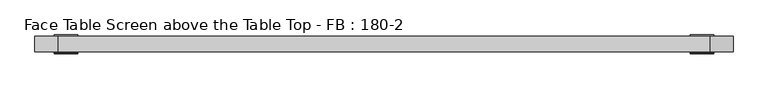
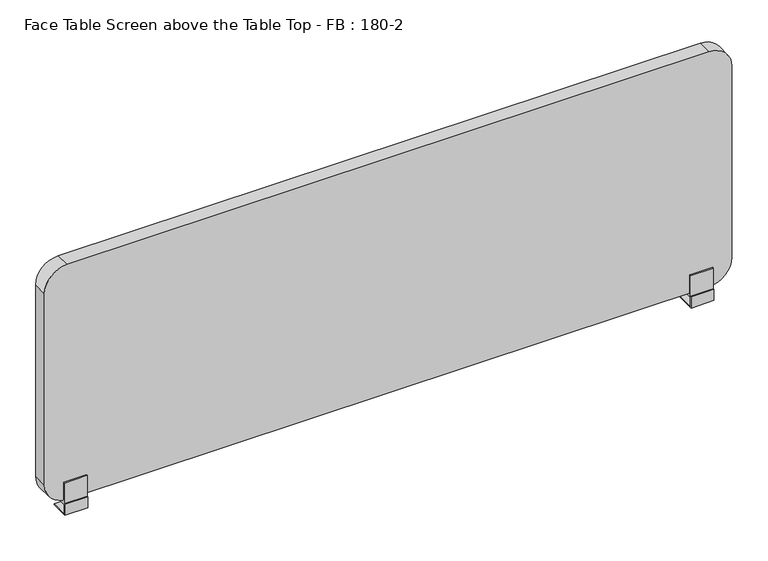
"""IFC4 building model written with IfcOpenShell, lengths in millimetres: furniture geometry, Face Table Screen above the Table Top - FB : 180-2."""

from ifc_helpers import new_model, si_unit, point, frame, frame_2d, origin, place, context, project, spatial, polyline, circle_curve, trimmed, segment, composite_curve, outline, extrude, source, transform, mapped, element, save
from ifc_brep_helpers import plane_surface, cylinder_surface, advanced_brep


def face_table_screen_above_the_table_top_fb_180_2_5c300800(model_context):
    return source(origin(), model_context, "Body", "SolidModel", [
        advanced_brep(
        [(-825.0, 20.0, -39.4406633), (-815.0, 20.0, -39.4406633), (-815.0, 20.0, -28.0), (-825.0, 20.0, -28.0), (-850.0, 43.0, -25.0), (-850.0, -3.0, -25.0), (-790.0, -3.0, -25.0), (-790.0, 43.0, -25.0), (-850.0, -3.0, 0.0), (-850.0, 43.0, -28.0), (-850.0, -6.0, -28.0), (-850.0, -6.0, 3.0), (-850.0, -3.0, 3.0), (-850.0, -3.0, 60.0), (-850.0, 0.0, 60.0), (-850.0, 0.0, 10.0), (-850.0, 40.0, 10.0), (-850.0, 40.0, 60.0), (-850.0, 43.0, 60.0), (-850.0, 43.0, 0.0), (-790.0, -3.0, 0.0), (-790.0, 43.0, 0.0), (-790.0, 43.0, 60.0), (-790.0, 40.0, 60.0), (-790.0, 40.0, 10.0), (-790.0, 0.0, 10.0), (-790.0, 0.0, 60.0), (-790.0, -3.0, 60.0), (-790.0, -3.0, 3.0), (-790.0, -6.0, 3.0), (-790.0, -6.0, -28.0), (-790.0, 43.0, -28.0)],
        [
            (0, 1, circle_curve(frame((-820.0, 20.0, -39.4406633), z_axis=(0.0, 0.0, -1.0), x_axis=(1.0, 0.0, 0.0)), 5.0)),
            (1, 0, circle_curve(frame((-820.0, 20.0, -39.4406633), z_axis=(0.0, 0.0, -1.0), x_axis=(1.0, 0.0, 0.0)), 5.0)),
            (1, 2),
            (2, 3, circle_curve(frame((-820.0, 20.0, -28.0), z_axis=(0.0, 0.0, -1.0), x_axis=(1.0, 0.0, 0.0)), 5.0)),
            (3, 0),
            (3, 2, circle_curve(frame((-820.0, 20.0, -28.0), z_axis=(0.0, 0.0, -1.0), x_axis=(1.0, 0.0, 0.0)), 5.0)),
            (4, 5),
            (5, 6),
            (6, 7),
            (7, 4),
            (8, 5),
            (4, 9),
            (9, 10),
            (10, 11),
            (11, 12),
            (12, 13),
            (13, 14),
            (14, 15),
            (15, 16),
            (16, 17),
            (17, 18),
            (18, 19),
            (19, 8),
            (20, 21),
            (21, 22),
            (22, 23),
            (23, 24),
            (24, 25),
            (25, 26),
            (26, 27),
            (27, 28),
            (28, 29),
            (29, 30),
            (30, 31),
            (31, 7),
            (6, 20),
            (19, 21),
            (20, 8),
            (18, 22),
            (17, 23),
            (16, 24),
            (15, 25),
            (14, 26),
            (13, 27),
            (12, 28),
            (11, 29),
            (10, 30),
            (9, 31),
        ],
        [
            plane_surface(frame((-815.0, 20.0, -39.4406633), z_axis=(0.0, 0.0, -1.0), x_axis=(0.0, -1.0, 0.0))),
            cylinder_surface(frame((-820.0, 20.0, -39.4406633), z_axis=(0.0, 0.0, 1.0), x_axis=(1.0, 0.0, 0.0)), 5.0),
            plane_surface(frame((-815.0, 20.0, -25.0), z_axis=(0.0, 0.0, 1.0), x_axis=(0.0, 1.0, 0.0))),
            plane_surface(frame((-850.0, 43.0, 0.0), z_axis=(-1.0, 0.0, 0.0), x_axis=(0.0, -1.0, 0.0))),
            plane_surface(frame((-790.0, 43.0, 0.0), z_axis=(1.0, 0.0, 0.0), x_axis=(0.0, 1.0, 0.0))),
            plane_surface(frame((-790.0, -3.0, 0.0), z_axis=(0.0, 0.0, -1.0), x_axis=(-1.0, 0.0, 0.0))),
            plane_surface(frame((-790.0, 43.0, 0.0), z_axis=(0.0, 1.0, 0.0), x_axis=(-1.0, 0.0, 0.0))),
            plane_surface(frame((-790.0, 43.0, 60.0), z_axis=(0.0, 0.0, 1.0), x_axis=(-1.0, 0.0, 0.0))),
            plane_surface(frame((-790.0, 40.0, 60.0), z_axis=(0.0, -1.0, 0.0), x_axis=(-1.0, 0.0, 0.0))),
            plane_surface(frame((-790.0, 40.0, 10.0), z_axis=(0.0, 0.0, 1.0), x_axis=(-1.0, 0.0, 0.0))),
            plane_surface(frame((-790.0, 0.0, 10.0), z_axis=(0.0, 1.0, 0.0), x_axis=(-1.0, 0.0, 0.0))),
            plane_surface(frame((-790.0, 0.0, 60.0), z_axis=(0.0, 0.0, 1.0), x_axis=(-1.0, 0.0, 0.0))),
            plane_surface(frame((-790.0, -3.0, 60.0), z_axis=(0.0, -1.0, 0.0), x_axis=(-1.0, 0.0, 0.0))),
            plane_surface(frame((-790.0, -3.0, 3.0), z_axis=(0.0, 0.0, 1.0), x_axis=(-1.0, 0.0, 0.0))),
            plane_surface(frame((-790.0, -6.0, 3.0), z_axis=(0.0, -1.0, 0.0), x_axis=(-1.0, 0.0, 0.0))),
            plane_surface(frame((-790.0, -6.0, -28.0), z_axis=(0.0, 0.0, -1.0), x_axis=(-1.0, 0.0, 0.0))),
            plane_surface(frame((-790.0, 43.0, -28.0), z_axis=(0.0, 1.0, 0.0), x_axis=(-1.0, 0.0, 0.0))),
            plane_surface(frame((-790.0, -3.0, -25.0), z_axis=(0.0, 1.0, 0.0), x_axis=(-1.0, 0.0, 0.0))),
        ],
        [
            (0, [[1, 2]]),
            (1, [[-2, 3, 4, 5]]),
            (1, [[-1, -5, 6, -3]]),
            (2, [[7, 8, 9, 10]]),
            (3, [[11, -7, 12, 13, 14, 15, 16, 17, 18, 19, 20, 21, 22, 23]]),
            (4, [[24, 25, 26, 27, 28, 29, 30, 31, 32, 33, 34, 35, -9, 36]]),
            (5, [[-23, 37, -24, 38]]),
            (6, [[-22, 39, -25, -37]]),
            (7, [[-21, 40, -26, -39]]),
            (8, [[-20, 41, -27, -40]]),
            (9, [[-19, 42, -28, -41]]),
            (10, [[-18, 43, -29, -42]]),
            (11, [[-17, 44, -30, -43]]),
            (12, [[-16, 45, -31, -44]]),
            (13, [[-15, 46, -32, -45]]),
            (14, [[-14, 47, -33, -46]]),
            (15, [[-13, 48, -34, -47], [-4, -6]]),
            (16, [[-12, -10, -35, -48]]),
            (17, [[-11, -38, -36, -8]]),
        ],
    ),
        advanced_brep(
        [(815.0, 20.0, -39.4406633), (825.0, 20.0, -39.4406633), (825.0, 20.0, -28.0), (815.0, 20.0, -28.0), (790.0, 43.0, -25.0), (790.0, -3.0, -25.0), (850.0, -3.0, -25.0), (850.0, 43.0, -25.0), (790.0, -3.0, 0.0), (790.0, 43.0, -28.0), (790.0, -6.0, -28.0), (790.0, -6.0, 3.0), (790.0, -3.0, 3.0), (790.0, -3.0, 60.0), (790.0, 0.0, 60.0), (790.0, 0.0, 10.0), (790.0, 40.0, 10.0), (790.0, 40.0, 60.0), (790.0, 43.0, 60.0), (790.0, 43.0, 0.0), (850.0, -3.0, 0.0), (850.0, 43.0, 0.0), (850.0, 43.0, 60.0), (850.0, 40.0, 60.0), (850.0, 40.0, 10.0), (850.0, 0.0, 10.0), (850.0, 0.0, 60.0), (850.0, -3.0, 60.0), (850.0, -3.0, 3.0), (850.0, -6.0, 3.0), (850.0, -6.0, -28.0), (850.0, 43.0, -28.0)],
        [
            (0, 1, circle_curve(frame((820.0, 20.0, -39.4406633), z_axis=(0.0, 0.0, -1.0), x_axis=(1.0, 0.0, 0.0)), 5.0)),
            (1, 0, circle_curve(frame((820.0, 20.0, -39.4406633), z_axis=(0.0, 0.0, -1.0), x_axis=(1.0, 0.0, 0.0)), 5.0)),
            (1, 2),
            (2, 3, circle_curve(frame((820.0, 20.0, -28.0), z_axis=(0.0, 0.0, -1.0), x_axis=(1.0, 0.0, 0.0)), 5.0)),
            (3, 0),
            (3, 2, circle_curve(frame((820.0, 20.0, -28.0), z_axis=(0.0, 0.0, -1.0), x_axis=(1.0, 0.0, 0.0)), 5.0)),
            (4, 5),
            (5, 6),
            (6, 7),
            (7, 4),
            (8, 5),
            (4, 9),
            (9, 10),
            (10, 11),
            (11, 12),
            (12, 13),
            (13, 14),
            (14, 15),
            (15, 16),
            (16, 17),
            (17, 18),
            (18, 19),
            (19, 8),
            (20, 21),
            (21, 22),
            (22, 23),
            (23, 24),
            (24, 25),
            (25, 26),
            (26, 27),
            (27, 28),
            (28, 29),
            (29, 30),
            (30, 31),
            (31, 7),
            (6, 20),
            (19, 21),
            (20, 8),
            (18, 22),
            (17, 23),
            (16, 24),
            (15, 25),
            (14, 26),
            (13, 27),
            (12, 28),
            (11, 29),
            (10, 30),
            (9, 31),
        ],
        [
            plane_surface(frame((825.0, 20.0, -39.4406633), z_axis=(0.0, 0.0, -1.0), x_axis=(0.0, -1.0, 0.0))),
            cylinder_surface(frame((820.0, 20.0, -39.4406633), z_axis=(0.0, 0.0, 1.0), x_axis=(1.0, 0.0, 0.0)), 5.0),
            plane_surface(frame((825.0, 20.0, -25.0), z_axis=(0.0, 0.0, 1.0), x_axis=(0.0, 1.0, 0.0))),
            plane_surface(frame((790.0, 43.0, 0.0), z_axis=(-1.0, 0.0, 0.0), x_axis=(0.0, -1.0, 0.0))),
            plane_surface(frame((850.0, 43.0, 0.0), z_axis=(1.0, 0.0, 0.0), x_axis=(0.0, 1.0, 0.0))),
            plane_surface(frame((850.0, -3.0, 0.0), z_axis=(0.0, 0.0, -1.0), x_axis=(-1.0, 0.0, 0.0))),
            plane_surface(frame((850.0, 43.0, 0.0), z_axis=(0.0, 1.0, 0.0), x_axis=(-1.0, 0.0, 0.0))),
            plane_surface(frame((850.0, 43.0, 60.0), z_axis=(0.0, 0.0, 1.0), x_axis=(-1.0, 0.0, 0.0))),
            plane_surface(frame((850.0, 40.0, 60.0), z_axis=(0.0, -1.0, 0.0), x_axis=(-1.0, 0.0, 0.0))),
            plane_surface(frame((850.0, 40.0, 10.0), z_axis=(0.0, 0.0, 1.0), x_axis=(-1.0, 0.0, 0.0))),
            plane_surface(frame((850.0, 0.0, 10.0), z_axis=(0.0, 1.0, 0.0), x_axis=(-1.0, 0.0, 0.0))),
            plane_surface(frame((850.0, 0.0, 60.0), z_axis=(0.0, 0.0, 1.0), x_axis=(-1.0, 0.0, 0.0))),
            plane_surface(frame((850.0, -3.0, 60.0), z_axis=(0.0, -1.0, 0.0), x_axis=(-1.0, 0.0, 0.0))),
            plane_surface(frame((850.0, -3.0, 3.0), z_axis=(0.0, 0.0, 1.0), x_axis=(-1.0, 0.0, 0.0))),
            plane_surface(frame((850.0, -6.0, 3.0), z_axis=(0.0, -1.0, 0.0), x_axis=(-1.0, 0.0, 0.0))),
            plane_surface(frame((850.0, -6.0, -28.0), z_axis=(0.0, 0.0, -1.0), x_axis=(-1.0, 0.0, 0.0))),
            plane_surface(frame((850.0, 43.0, -28.0), z_axis=(0.0, 1.0, 0.0), x_axis=(-1.0, 0.0, 0.0))),
            plane_surface(frame((850.0, -3.0, -25.0), z_axis=(0.0, 1.0, 0.0), x_axis=(-1.0, 0.0, 0.0))),
        ],
        [
            (0, [[1, 2]]),
            (1, [[-2, 3, 4, 5]]),
            (1, [[-1, -5, 6, -3]]),
            (2, [[7, 8, 9, 10]]),
            (3, [[11, -7, 12, 13, 14, 15, 16, 17, 18, 19, 20, 21, 22, 23]]),
            (4, [[24, 25, 26, 27, 28, 29, 30, 31, 32, 33, 34, 35, -9, 36]]),
            (5, [[-23, 37, -24, 38]]),
            (6, [[-22, 39, -25, -37]]),
            (7, [[-21, 40, -26, -39]]),
            (8, [[-20, 41, -27, -40]]),
            (9, [[-19, 42, -28, -41]]),
            (10, [[-18, 43, -29, -42]]),
            (11, [[-17, 44, -30, -43]]),
            (12, [[-16, 45, -31, -44]]),
            (13, [[-15, 46, -32, -45]]),
            (14, [[-14, 47, -33, -46]]),
            (15, [[-13, 48, -34, -47], [-4, -6]]),
            (16, [[-12, -10, -35, -48]]),
            (17, [[-11, -38, -36, -8]]),
        ],
    ),
        extrude(outline(composite_curve([segment(polyline([(660.0, 840.0), (660.0, -840.0)]), True, "CONTINUOUS"), segment(trimmed(circle_curve(frame_2d((600.0, -840.0)), 60.0), [point((660.0, -840.0))], [point((600.0, -900.0))], False, "CARTESIAN"), True, "CONTINUOUS"), segment(polyline([(600.0, -900.0), (70.0, -900.0)]), True, "CONTINUOUS"), segment(trimmed(circle_curve(frame_2d((70.0, -840.0)), 60.0), [point((70.0, -900.0))], [point((10.0, -840.0))], False, "CARTESIAN"), True, "CONTINUOUS"), segment(polyline([(10.0, -840.0), (10.0, 840.0)]), True, "CONTINUOUS"), segment(trimmed(circle_curve(frame_2d((70.0, 840.0)), 60.0), [point((10.0, 840.0))], [point((70.0, 900.0))], False, "CARTESIAN"), True, "CONTINUOUS"), segment(polyline([(70.0, 900.0), (600.0, 900.0)]), True, "CONTINUOUS"), segment(trimmed(circle_curve(frame_2d((600.0, 840.0)), 60.0), [point((600.0, 900.0))], [point((660.0, 840.0))], False, "CARTESIAN"), True, "CONTINUOUS")], self_intersect=False)), frame((0.0, 0.0, 0.0), z_axis=(0.0, 1.0, 0.0), x_axis=(0.0, 0.0, 1.0)), (0.0, 0.0, 1.0), 40.0),
    ])


if __name__ == "__main__":
    model = new_model("IFC4")
    model_context = context("Model", 3, world=origin())
    ifc_project = project(units=[si_unit("LENGTHUNIT", "METRE", prefix="MILLI")], contexts=[model_context])
    site = spatial("IfcSite", under=ifc_project)
    building = spatial("IfcBuilding", under=site)
    placement = place(None, origin())
    face_table_screen_above_the_table_top_fb_180_2_shape = face_table_screen_above_the_table_top_fb_180_2_5c300800(model_context)
    element("IfcFurniture", 1, ObjectType="Face Table Screen above the Table Top - FB : 180-2", at=placement, inside=building, context=model_context, shape_type="MappedRepresentation", body=[
        mapped(face_table_screen_above_the_table_top_fb_180_2_shape, transform((0.0, 0.0, 0.0), x_axis=(1.0, 0.0, 0.0), y_axis=(0.0, 1.0, 0.0), z_axis=(0.0, 0.0, 1.0))),
    ])
    save(model, "model.ifc")
